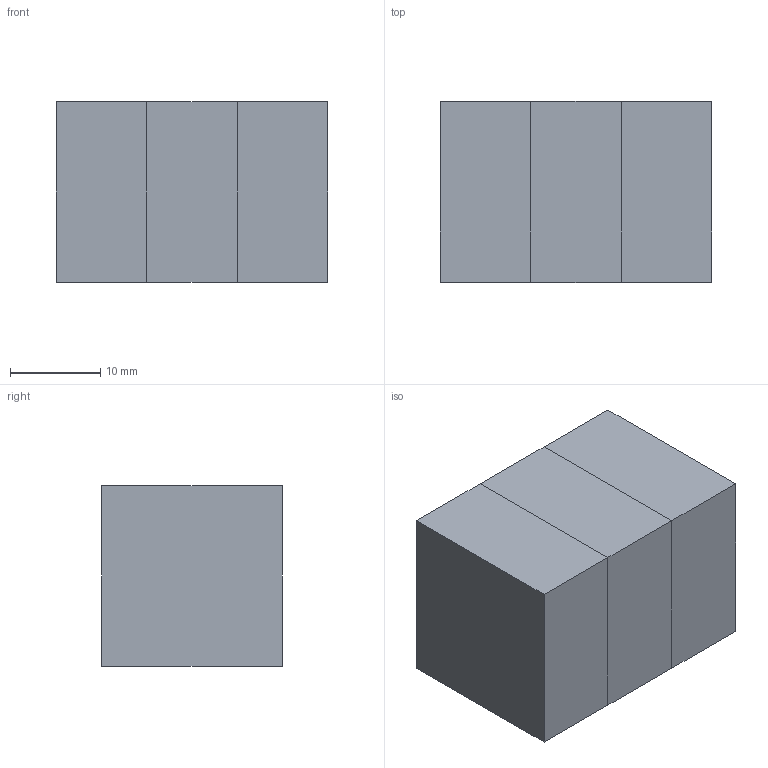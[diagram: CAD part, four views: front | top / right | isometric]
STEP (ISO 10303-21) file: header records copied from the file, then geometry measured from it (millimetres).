
FILE_DESCRIPTION(('Open CASCADE Model'),'2;1');
FILE_NAME('Open CASCADE Shape Model','2026-09-02T22:40:03',('Author'),( 'Open CASCADE'),'Open CASCADE STEP processor 7.8','Open CASCADE 7.8' ,'Unknown');
FILE_SCHEMA(('AUTOMOTIVE_DESIGN { 1 0 10303 214 1 1 1 1 }'));
Length unit declared in the file: millimetre
Products named in the file (1): Open CASCADE STEP translator 7.8 8
Bounding box: 30 x 20 x 20 mm (x, y, z)
Volume: 12000 mm3; surface area: 3200 mm2
Topology: 1 solids, 1 shells, 14 faces, 28 edges, 16 vertices
Faces by surface type: plane 14
Entity records: 722 total; most frequent: CARTESIAN_POINT 115, DIRECTION 114, LINE 84, VECTOR 84, ORIENTED_EDGE 56, PCURVE 56, DEFINITIONAL_REPRESENTATION 56, EDGE_CURVE 28
